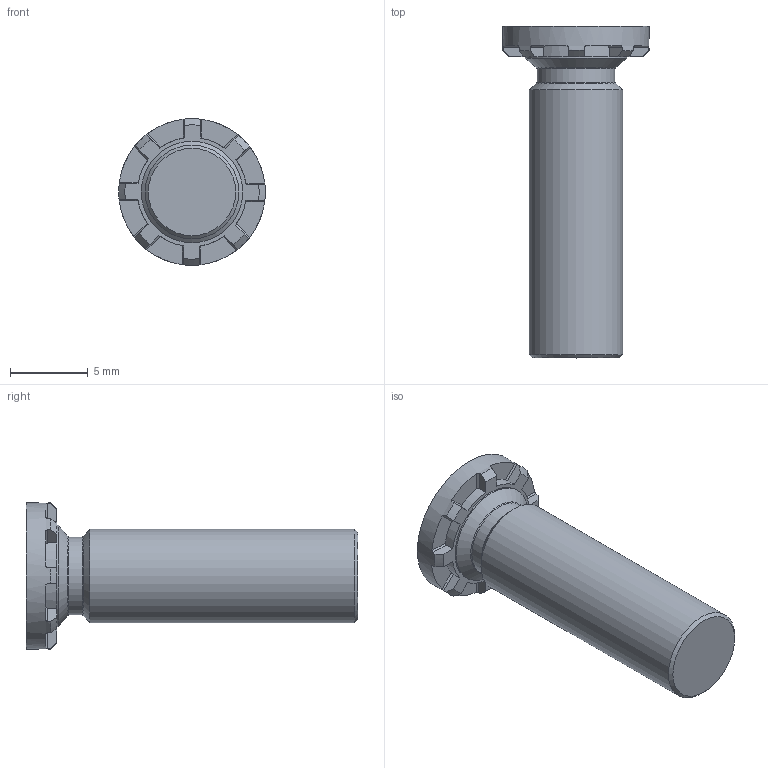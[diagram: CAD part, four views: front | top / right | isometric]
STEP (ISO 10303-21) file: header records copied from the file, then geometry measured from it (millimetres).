
FILE_DESCRIPTION(/* description */ (''),/* implementation_level */ '2;1');
FILE_NAME(/* name */ 'C:\Users\keval.kumar\Desktop\Fastit\Clinch Screw- HFH Range\M6\Clinch Screw-HFH Range_M6x20.stp',/* time_stamp */ '2024-03-12T15:30:50+05:00',/* author */ ('keval.kumar'),/* organization */ (''),/* preprocessor_version */ 'ST-DEVELOPER v18.1',/* originating_system */ 'Autodesk Inventor 2022',/* authorisation */ '');
FILE_SCHEMA (('AUTOMOTIVE_DESIGN { 1 0 10303 214 3 1 1 }'));
Length unit declared in the file: millimetre
Products named in the file (1): Clinch Screw-HFH Range_M6x20
Bounding box: 9.4 x 21.27 x 9.4 mm (x, y, z)
Volume: 655.7 mm3; surface area: 563.7 mm2
Topology: 1 solids, 1 shells, 68 faces, 193 edges, 128 vertices
Faces by surface type: plane 43, cylinder 12, cone 11, torus 2
Full cylindrical faces by diameter (mm): 5 x1, 6 x1, 6.5 x1, 9.4 x1
Entity records: 2278 total; most frequent: CARTESIAN_POINT 422, DIRECTION 405, ORIENTED_EDGE 386, EDGE_CURVE 193, AXIS2_PLACEMENT_3D 159, VERTEX_POINT 128, LINE 87, VECTOR 87
